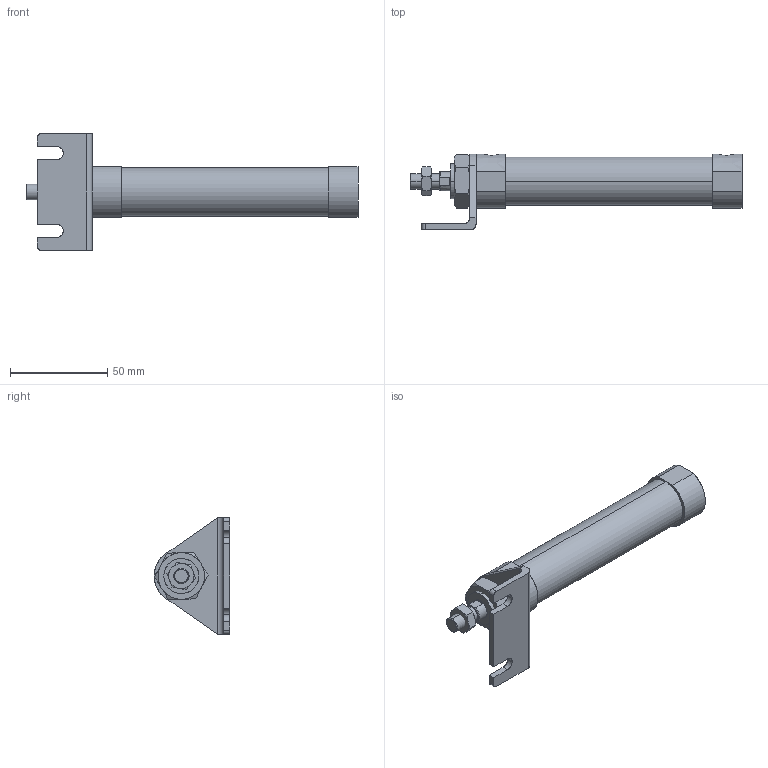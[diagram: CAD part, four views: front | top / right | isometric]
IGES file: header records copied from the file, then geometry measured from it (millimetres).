
Start section: SolidWorks IGES file using analytic representation for surfaces
Global section: file name: C:\Users\Toshiba\Desktop\JGND2-20-75-L.IGS; native system: SolidWorks 2014; preprocessor: SolidWorks 2014; author: Toshiba; date: 160804.102441; units: millimetre
Bounding box: 171 x 39 x 60 mm (x, y, z)
Surface area: 22725.8 mm2 (no closed solid volume)
Topology: 0 solids, 0 shells, 111 faces, 1814 edges, 1814 vertices
Faces by surface type: bspline 73, revolution 38
